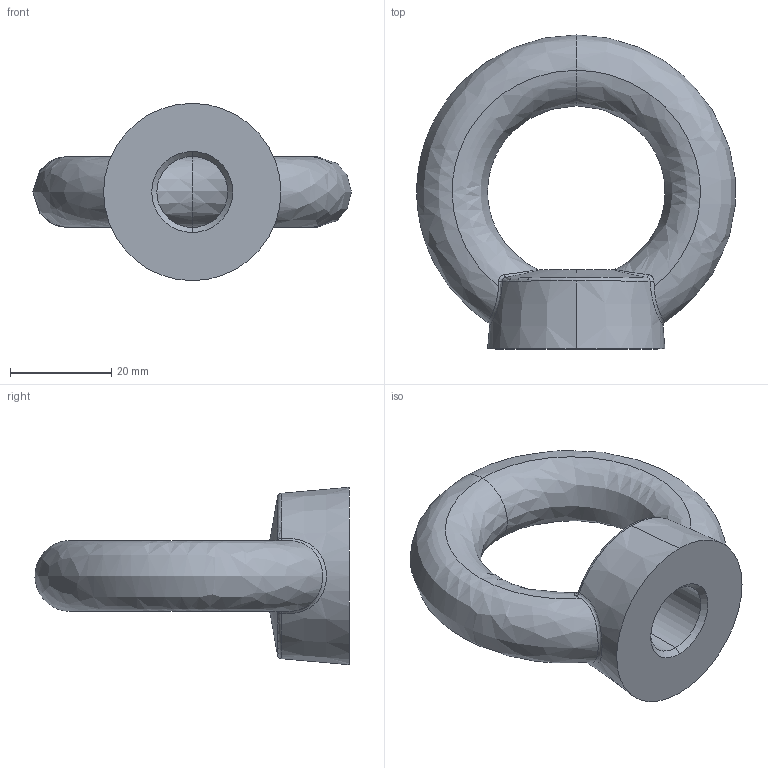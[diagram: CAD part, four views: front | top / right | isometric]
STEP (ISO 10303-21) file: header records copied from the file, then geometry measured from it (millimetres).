
FILE_DESCRIPTION (( 'STEP AP203' ), '1' );
FILE_NAME ('P4041.140-ZP.step', '2023-04-16T07:59:42', ( '' ), ( '' ), 'SwSTEP 2.0', 'SolidWorks 2019', '' );
FILE_SCHEMA (( 'CONFIG_CONTROL_DESIGN' ));
Length unit declared in the file: millimetre
Products named in the file (1): P4041.140-ZP
Bounding box: 62.89 x 61.99 x 35 mm (x, y, z)
Volume: 29460.8 mm3; surface area: 8681.6 mm2
Topology: 1 solids, 1 shells, 24 faces, 59 edges, 34 vertices
Faces by surface type: bspline 12, cone 6, torus 3, cylinder 2, plane 1
Entity records: 3121 total; most frequent: CARTESIAN_POINT 2556, ORIENTED_EDGE 118, DIRECTION 84, EDGE_CURVE 59, AXIS2_PLACEMENT_3D 38, VERTEX_POINT 34, EDGE_LOOP 25, CIRCLE 25
